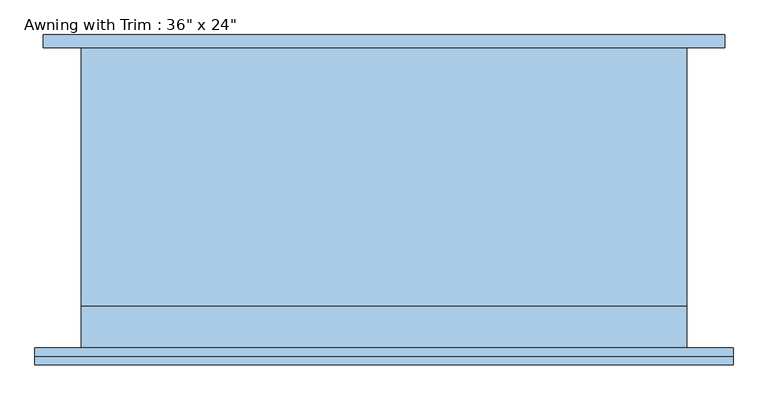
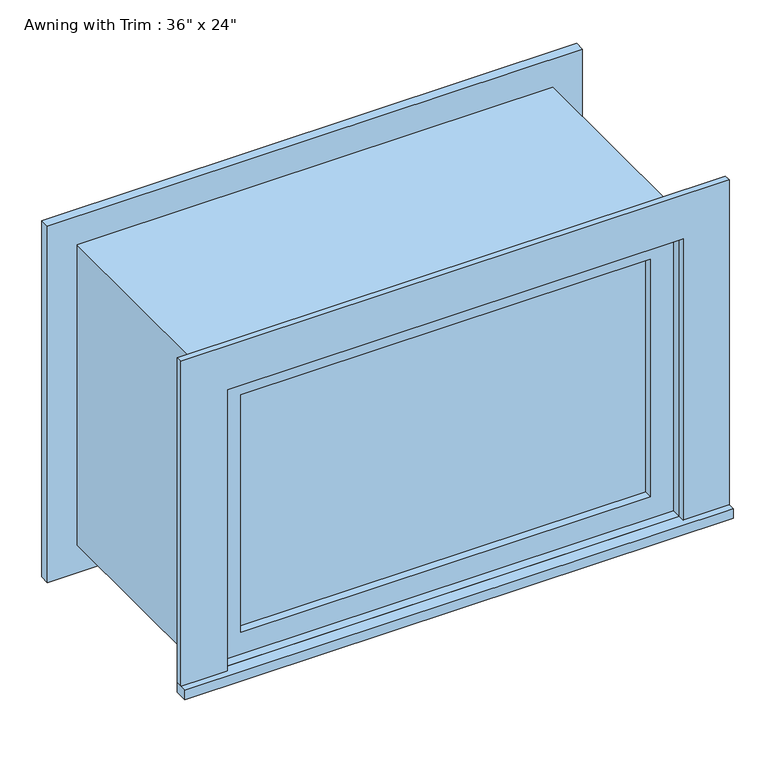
"""IFC4 building model written with IfcOpenShell, lengths in millimetres: window geometry."""

from ifc_helpers import new_model, si_unit, frame, origin, place, context, project, spatial, polyline, outline, extrude, source, transform, mapped, element, save


def window_70ae8583(model_context):
    return source(origin(), model_context, "Body", "SweptSolid", [
        extrude(outline(polyline([(-527.05, -252.4125), (-527.05, -227.0125), (527.05, -227.0125), (527.05, -252.4125), (-527.05, -252.4125)])), frame((0.0, 0.0, 914.4), z_axis=(0.0, 0.0, 1.0), x_axis=(1.0, 0.0, 0.0)), (0.0, 0.0, 1.0), 19.05),
        extrude(outline(polyline([(1504.95, -438.15), (1504.95, 438.15), (933.45, 438.15), (933.45, 527.05), (1593.85, 527.05), (1593.85, -527.05), (933.45, -527.05), (933.45, -438.15), (1504.95, -438.15)])), frame((0.0, -239.7125, 0.0), z_axis=(0.0, 1.0, 0.0), x_axis=(0.0, 0.0, 1.0)), (0.0, 0.0, 1.0), 12.7),
        extrude(outline(polyline([(1581.15, 514.35), (1581.15, -514.35), (857.25, -514.35), (857.25, 514.35), (1581.15, 514.35)]), holes=[polyline([(1492.25, 425.45), (946.15, 425.45), (946.15, -425.45), (1492.25, -425.45), (1492.25, 425.45)])]), frame((0.0, 227.0125, 0.0), z_axis=(0.0, 1.0, 0.0), x_axis=(0.0, 0.0, 1.0)), (0.0, 0.0, 1.0), 19.05),
        extrude(outline(polyline([(393.7, -179.3875), (393.7, -192.0875), (-393.7, -192.0875), (-393.7, -179.3875), (393.7, -179.3875)])), frame((0.0, 0.0, 977.9), z_axis=(0.0, 0.0, 1.0), x_axis=(1.0, 0.0, 0.0)), (0.0, 0.0, 1.0), 482.6),
        extrude(outline(polyline([(1504.95, -438.15), (933.45, -438.15), (933.45, 438.15), (1504.95, 438.15), (1504.95, -438.15)]), holes=[polyline([(1460.5, -393.7), (1460.5, 393.7), (977.9, 393.7), (977.9, -393.7), (1460.5, -393.7)])]), frame((0.0, -207.9625, 0.0), z_axis=(0.0, 1.0, 0.0), x_axis=(0.0, 0.0, 1.0)), (0.0, 0.0, 1.0), 44.45),
        extrude(outline(polyline([(1524.0, -457.2), (914.4, -457.2), (914.4, 457.2), (1524.0, 457.2), (1524.0, -457.2)]), holes=[polyline([(1492.25, -425.45), (1492.25, 425.45), (946.15, 425.45), (946.15, -425.45), (1492.25, -425.45)])]), frame((0.0, -163.5125, 0.0), z_axis=(0.0, 1.0, 0.0), x_axis=(0.0, 0.0, 1.0)), (0.0, 0.0, 1.0), 390.525),
        extrude(outline(polyline([(1524.0, 457.2), (1524.0, -457.2), (914.4, -457.2), (914.4, 457.2), (1524.0, 457.2)]), holes=[polyline([(1504.95, 438.15), (933.45, 438.15), (933.45, -438.15), (1504.95, -438.15), (1504.95, 438.15)])]), frame((0.0, -227.0125, 0.0), z_axis=(0.0, 1.0, 0.0), x_axis=(0.0, 0.0, 1.0)), (0.0, 0.0, 1.0), 63.5),
    ])


if __name__ == "__main__":
    model = new_model("IFC4")
    model_context = context("Model", 3, world=origin())
    ifc_project = project(units=[si_unit("LENGTHUNIT", "METRE", prefix="MILLI")], contexts=[model_context])
    site = spatial("IfcSite", under=ifc_project)
    building = spatial("IfcBuilding", under=site)
    placement = place(None, origin())
    window_shape = window_70ae8583(model_context)
    element("IfcWindow", 1, ObjectType="Awning with Trim : 36\" x 24\"", at=placement, inside=building, context=model_context, shape_type="MappedRepresentation", body=[
        mapped(window_shape, transform((0.0, 0.0, 0.0), x_axis=(1.0, 0.0, 0.0), y_axis=(0.0, 1.0, 0.0), z_axis=(0.0, 0.0, 1.0))),
    ])
    save(model, "model.ifc")
